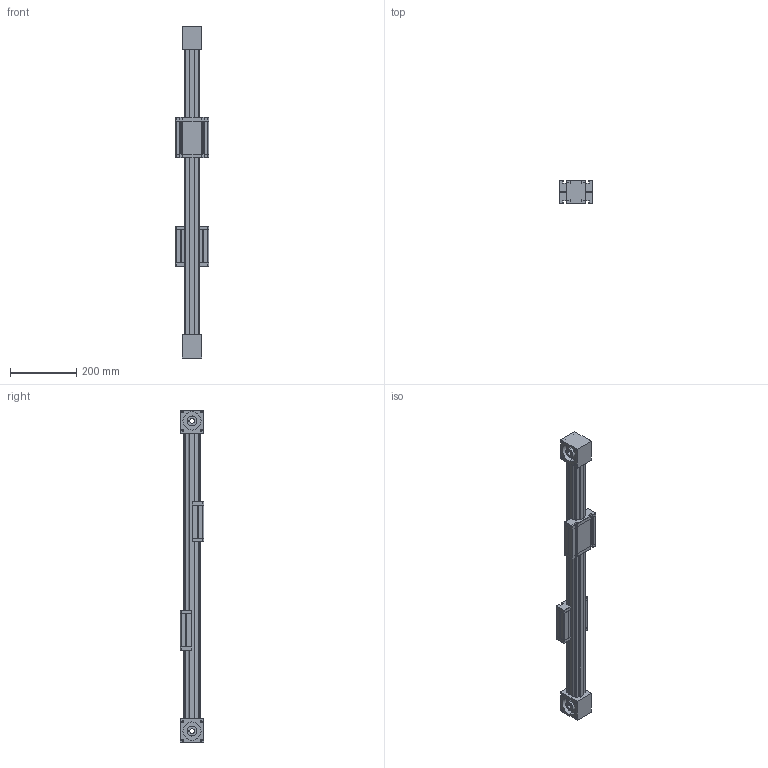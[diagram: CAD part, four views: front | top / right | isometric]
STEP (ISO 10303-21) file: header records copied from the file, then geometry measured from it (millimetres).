
FILE_DESCRIPTION (( 'STEP AP214' ), '1' );
FILE_NAME ('ELZG40.STEP', '2022-07-21T09:32:03', ( '' ), ( '' ), 'SwSTEP 2.0', 'SolidWorks 2020', '' );
FILE_SCHEMA (( 'AUTOMOTIVE_DESIGN' ));
Length unit declared in the file: millimetre
Products named in the file (5): carriage^ELZG40_carriage version 0; timing belt reverse unit^ELZG40_coupling claw pos.2; profile^ELZG40_4x guide rod; ELZG40; timing belt reverse unit^ELZG40_coupling claw pos.1
Assembly tree (5 placements, depth 2):
  ELZG40
    profile^ELZG40_4x guide rod
    carriage^ELZG40_carriage version 0  x2
    timing belt reverse unit^ELZG40_coupling claw pos.1
    timing belt reverse unit^ELZG40_coupling claw pos.2
Bounding box: 100 x 70 x 1000 mm (x, y, z)
Volume: 2428180.3 mm3; surface area: 488515.7 mm2
Topology: 15 solids, 15 shells, 512 faces, 1344 edges, 884 vertices
Faces by surface type: plane 330, cylinder 162, torus 16, cone 4
Entity records: 11631 total; most frequent: DIRECTION 1833, CARTESIAN_POINT 1784, ORIENTED_EDGE 1730, EDGE_CURVE 865, AXIS2_PLACEMENT_3D 619, LINE 595, VECTOR 595, VERTEX_POINT 570
